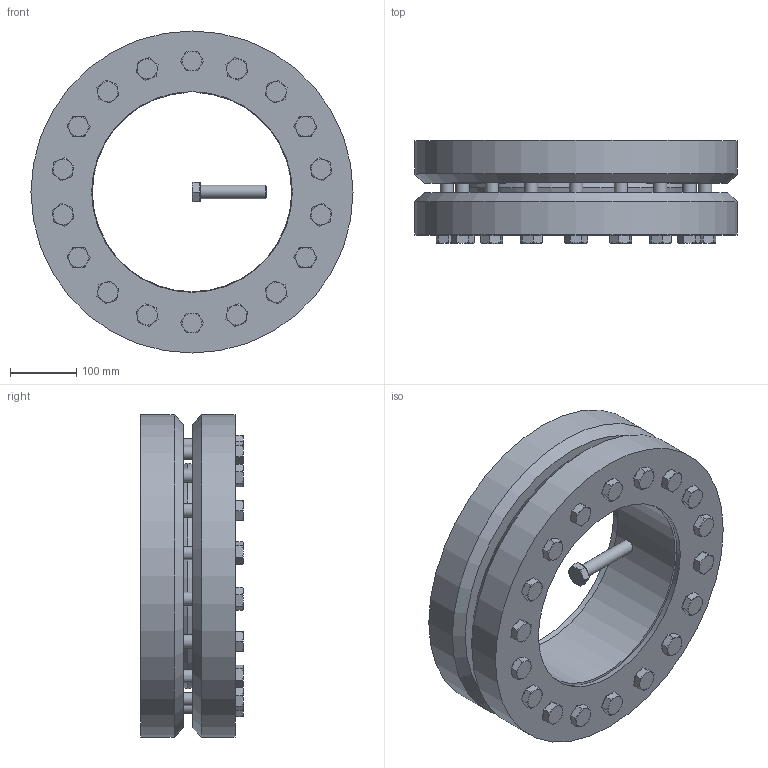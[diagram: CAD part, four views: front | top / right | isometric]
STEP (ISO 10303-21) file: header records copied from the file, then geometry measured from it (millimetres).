
FILE_DESCRIPTION( ( 'Unknown' ), '1' );
FILE_NAME( 'C:/Dokumente und Einstellungen/Sven/Desktop/homepage/cad - homepage/KBS19/KBS 19 - 300 x 485.stp', 'Unknown', ( 'Unknown' ), ( 'Unknown' ), 'XStep 1.0', 'Unknown', ' ' );
FILE_SCHEMA( ( 'automotive_design' ) );
Length unit declared in the file: millimetre
Products named in the file (3): Assem1; KBS 19 - 300 x 485; ISO 4017 - M20 x 100-N
Bounding box: 485 x 154.5 x 485 mm (x, y, z)
Volume: 28339268.1 mm3; surface area: 1910887.4 mm2
Topology: 21 solids, 21 shells, 593 faces, 1388 edges, 856 vertices
Faces by surface type: plane 313, cone 145, cylinder 116, torus 19
Full cylindrical faces by diameter (mm): 20 x91, 30 x19, 485 x4
Entity records: 2860 total; most frequent: CARTESIAN_POINT 475, DIRECTION 466, ORIENTED_EDGE 332, AXIS2_PLACEMENT_3D 212, EDGE_LOOP 207, EDGE_CURVE 166, VERTEX_POINT 133, FACE_OUTER_BOUND 125
